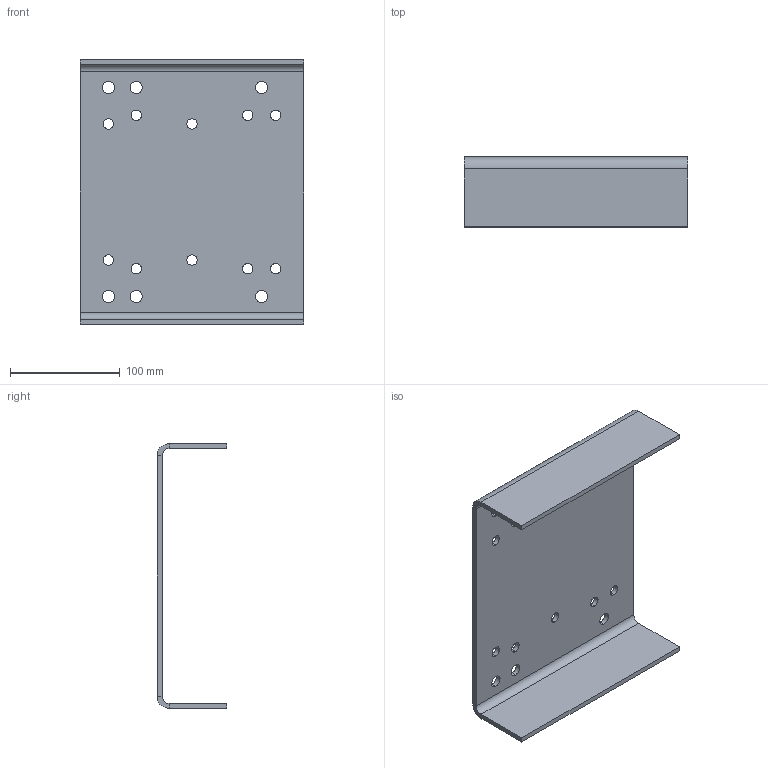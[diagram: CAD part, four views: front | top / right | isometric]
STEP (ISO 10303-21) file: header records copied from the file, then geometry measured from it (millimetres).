
FILE_DESCRIPTION (( 'STEP AP203' ), '1' );
FILE_NAME ('MBP-056_184.STEP', '2009-07-23T15:17:59', ( 'Chris McCoy' ), ( 'Magnaloy Coupling Co' ), 'SwSTEP 2.0', 'SolidWorks 2009', '' );
FILE_SCHEMA (( 'CONFIG_CONTROL_DESIGN' ));
Length unit declared in the file: inch
Products named in the file (1): MBP-056_184
Bounding box: 203.2 x 63.5 x 241.3 mm (x, y, z)
Volume: 319659.6 mm3; surface area: 147750.2 mm2
Topology: 1 solids, 1 shells, 54 faces, 140 edges, 88 vertices
Faces by surface type: cylinder 36, plane 18
Entity records: 1811 total; most frequent: DIRECTION 322, CARTESIAN_POINT 283, ORIENTED_EDGE 280, EDGE_CURVE 140, AXIS2_PLACEMENT_3D 127, VERTEX_POINT 88, EDGE_LOOP 86, CIRCLE 72
